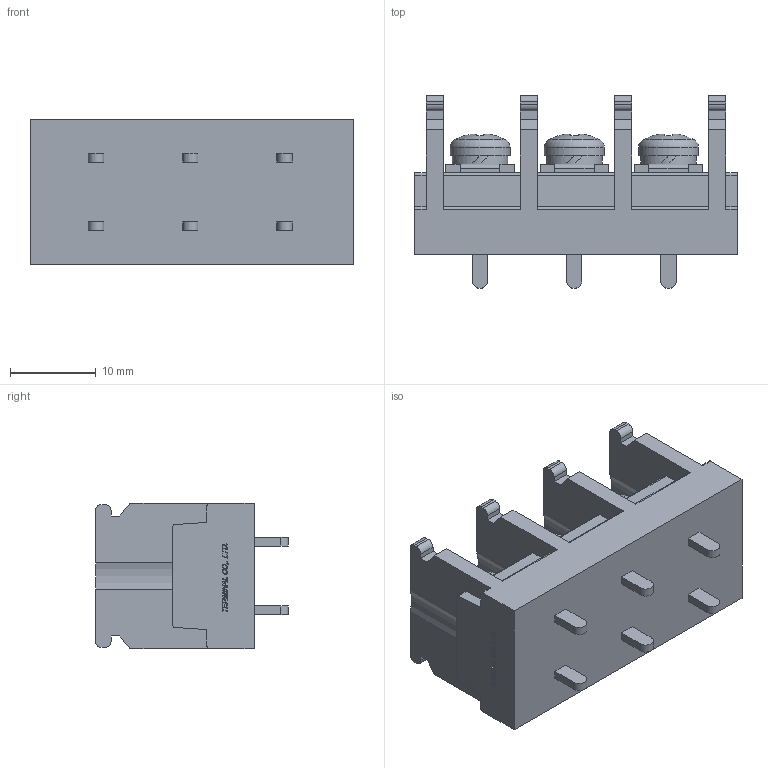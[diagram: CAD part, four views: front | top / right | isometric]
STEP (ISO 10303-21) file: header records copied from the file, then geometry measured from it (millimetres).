
FILE_DESCRIPTION(/* description */ ('Alibre Inc.'),/* implementation_level */ '2;1');
FILE_NAME(/* name */ 'export0',/* time_stamp */ '2015-10-19T19:39:51+09:00',/* author */ (''),/* organization */ (''),/* preprocessor_version */ 'ST-DEVELOPER v14',/* originating_system */ 'Alibre',/* authorisation */ '');
FILE_SCHEMA (('CONFIG_CONTROL_DESIGN'));
Length unit declared in the file: centimetre
Products named in the file (1): ID_1
Bounding box: 37.6 x 22.5 x 17 mm (x, y, z)
Volume: 7179.3 mm3; surface area: 4338.5 mm2
Topology: 1 solids, 1 shells, 648 faces, 1773 edges, 1179 vertices
Faces by surface type: plane 458, bspline 104, cylinder 65, cone 12, torus 6, sphere 3
Full cylindrical faces by diameter (mm): 4 x3, 6.5 x3, 7 x3
Entity records: 19932 total; most frequent: CARTESIAN_POINT 4579, ORIENTED_EDGE 3504, DIRECTION 2345, EDGE_CURVE 1752, VECTOR 1295, LINE 1295, VERTEX_POINT 1170, AXIS2_PLACEMENT_3D 746
